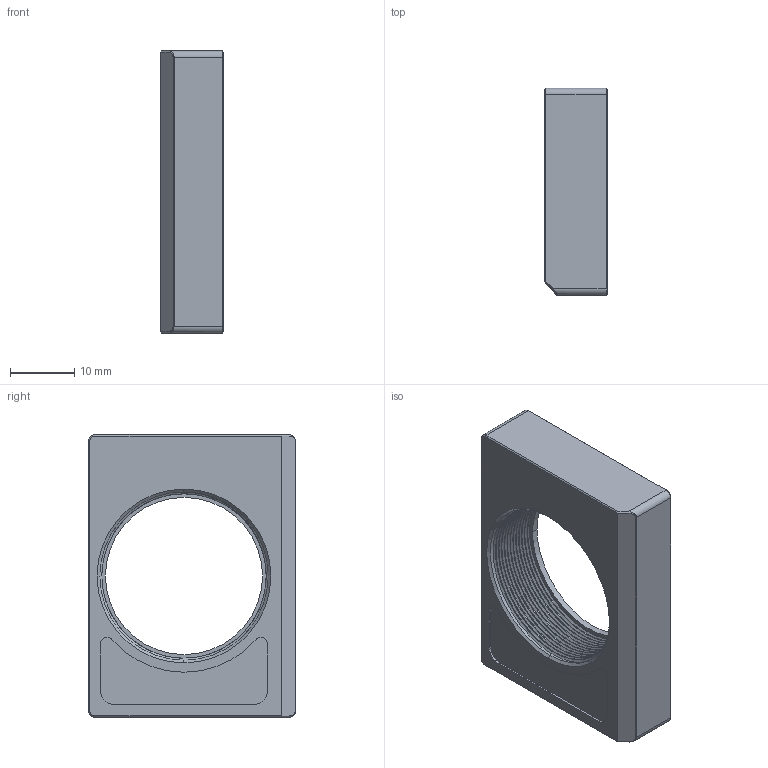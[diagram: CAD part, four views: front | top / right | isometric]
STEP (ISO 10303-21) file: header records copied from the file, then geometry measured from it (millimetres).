
FILE_DESCRIPTION((''),'2;1');
FILE_NAME('WO-X1','2020-10-19T',('Administrator'),(''),'CREO PARAMETRIC BY PTC INC, 2015290','CREO PARAMETRIC BY PTC INC, 2015290','');
FILE_SCHEMA(('CONFIG_CONTROL_DESIGN'));
Length unit declared in the file: millimetre
Products named in the file (1): WO-X1
Bounding box: 9.8 x 32.3 x 44 mm (x, y, z)
Volume: 8613.9 mm3; surface area: 4380.2 mm2
Topology: 1 solids, 1 shells, 89 faces, 227 edges, 142 vertices
Faces by surface type: cylinder 37, plane 26, bspline 18, cone 8
Entity records: 6095 total; most frequent: CARTESIAN_POINT 4095, ORIENTED_EDGE 454, DIRECTION 321, EDGE_CURVE 227, VERTEX_POINT 142, VECTOR 117, LINE 117, AXIS2_PLACEMENT_3D 102
